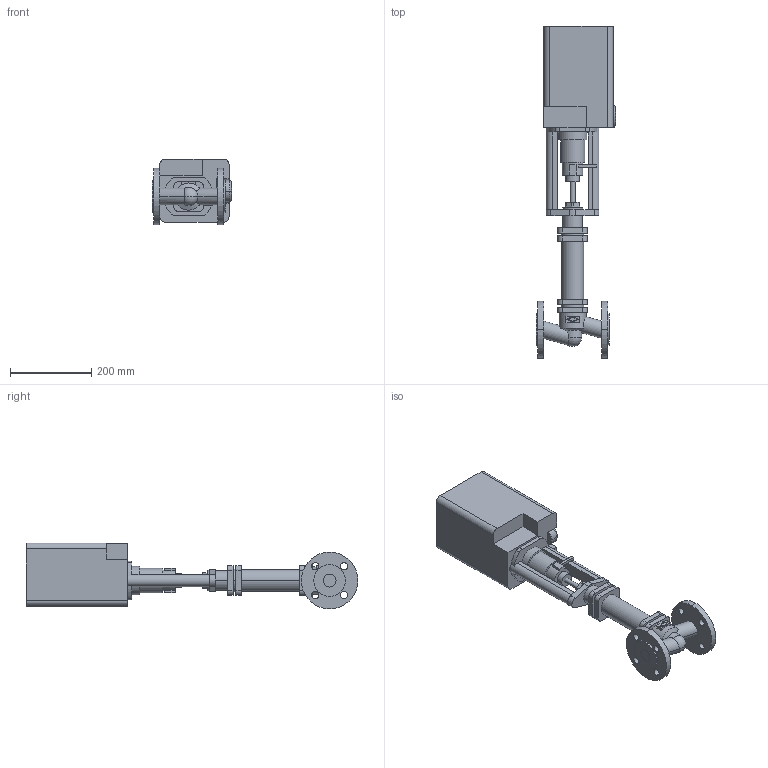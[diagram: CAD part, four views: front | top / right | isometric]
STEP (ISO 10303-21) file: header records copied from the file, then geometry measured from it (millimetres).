
FILE_DESCRIPTION(('CoCreate Modeling STEP Export'),'2;1');
FILE_NAME('c000004802.stp','2011-10-11T11:21:59',(''),(''),'CoCreate Modeling STEP processor for AP214 (Solid Model)','CoCreate Modeling 17.0 01-Apr-2010 (C) Parametric Technology GmbH','');
FILE_SCHEMA(('AUTOMOTIVE_DESIGN { 1 0 10303 214 1 1 1 1 }'));
Length unit declared in the file: millimetre
Products named in the file (2): 1; 2
Bounding box: 196.5 x 819.5 x 162.5 mm (x, y, z)
Volume: 8683969.3 mm3; surface area: 478192.9 mm2
Topology: 2 solids, 2 shells, 223 faces, 565 edges, 373 vertices
Faces by surface type: plane 108, cylinder 103, sphere 6, torus 4, cone 2
Entity records: 8289 total; most frequent: CARTESIAN_POINT 1275, ORIENTED_EDGE 1126, DIRECTION 1018, EDGE_CURVE 563, VERTEX_POINT 373, AXIS2_PLACEMENT_3D 353, VECTOR 312, LINE 312
